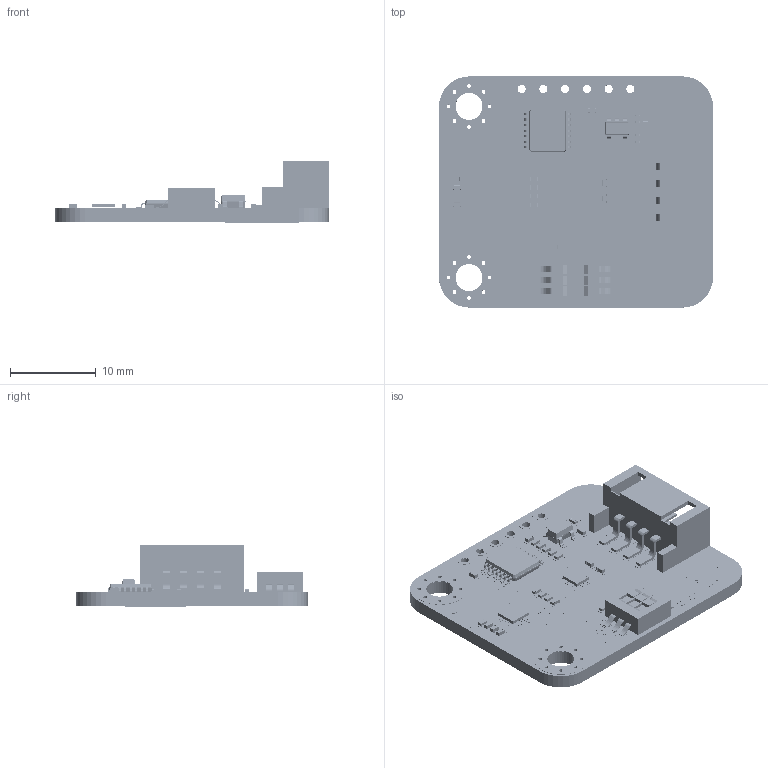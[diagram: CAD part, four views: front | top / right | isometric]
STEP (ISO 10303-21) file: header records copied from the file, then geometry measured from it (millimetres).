
FILE_DESCRIPTION(/* description */ (''),/* implementation_level */ '2;1');
FILE_NAME(/* name */ 'SEN0692',/* time_stamp */ '2026-03-20T13:46:59+08:00',/* author */ (''),/* organization */ (''),/* preprocessor_version */ 'ST-DEVELOPER v19.2',/* originating_system */ 'Rhino 8.0',/* authorisation */ '');
FILE_SCHEMA (('CONFIG_CONTROL_DESIGN'));
Products named in the file (1): Document
Bounding box: 32 x 27 x 7.16 mm (x, y, z)
Volume: 1562.3 mm3; surface area: 4136 mm2
Topology: 523 solids, 548 shells, 6446 faces, 16665 edges, 11294 vertices
Faces by surface type: plane 4549, cylinder 1724, bspline 173
Entity records: 193406 total; most frequent: CARTESIAN_POINT 61809, ORIENTED_EDGE 32724, EDGE_CURVE 16665, DIRECTION 13174, B_SPLINE_CURVE_WITH_KNOTS 12848, VERTEX_POINT 11294, AXIS2_PLACEMENT_3D 9713, EDGE_LOOP 7116
